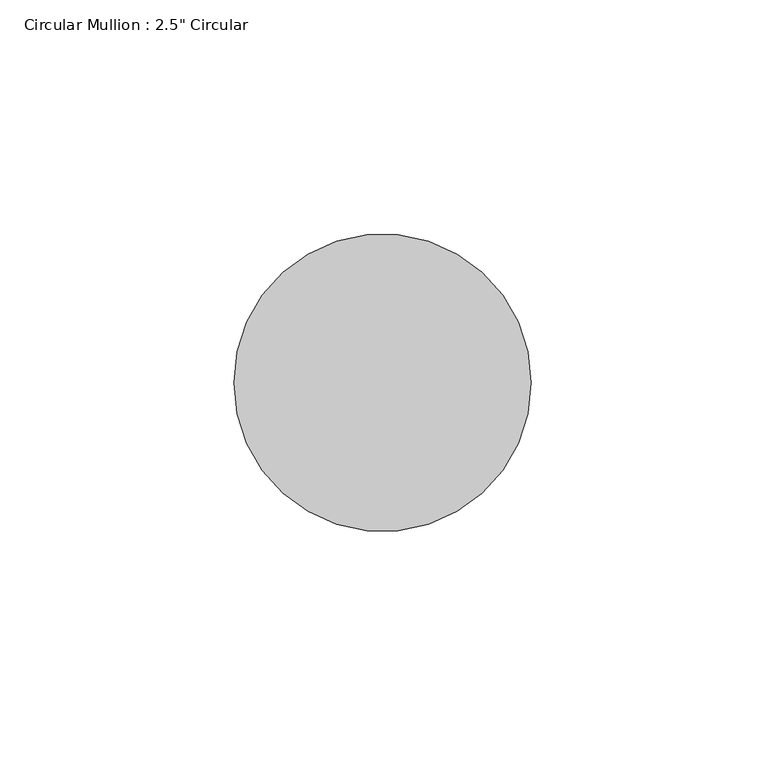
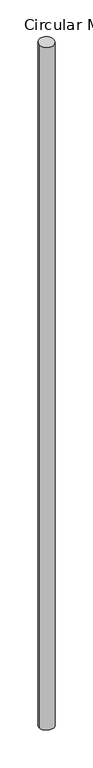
"""IFC4 building model written with IfcOpenShell, lengths in millimetres: member geometry."""

from ifc_helpers import new_model, si_unit, frame, origin, origin_with_axes, place, context, project, spatial, ellipse_curve, source, transform, mapped, element, save
from ifc_brep_helpers import plane_surface, cylinder_surface, advanced_brep


def member_e3ef78de(model_context):
    return source(origin(), model_context, "Body", "AdvancedBrep", [
        advanced_brep(
        [(-31.75, 0.0, -0.5379516), (31.75, 0.0, 0.5379516), (31.75, 0.0, -3056.9214988), (-31.75, 0.0, -3056.2273477)],
        [
            (0, 1, ellipse_curve(frame((0.0, 0.0, 0.0), z_axis=(0.016880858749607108, 0.08413524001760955, -0.996311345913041), x_axis=(0.19599342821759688, 0.9768433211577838, 0.08581201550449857)), 31.8675484, 31.75)),
            (1, 2),
            (2, 3, ellipse_curve(frame((0.0, 0.0, -3056.5744232), z_axis=(0.010912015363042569, 0.05869530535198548, 0.9982163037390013), x_axis=(-0.1824517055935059, -0.981400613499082, 0.05970101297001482)), 31.8067336, 31.75)),
            (3, 0),
            (1, 0, ellipse_curve(frame((0.0, 0.0, 0.0), z_axis=(0.016880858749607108, 0.08413524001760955, -0.996311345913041), x_axis=(0.19599342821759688, 0.9768433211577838, 0.08581201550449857)), 31.8675484, 31.75)),
            (3, 2, ellipse_curve(frame((0.0, 0.0, -3056.5744232), z_axis=(0.010912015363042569, 0.05869530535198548, 0.9982163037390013), x_axis=(-0.1824517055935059, -0.981400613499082, 0.05970101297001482)), 31.8067336, 31.75)),
        ],
        [
            cylinder_surface(origin_with_axes(), 31.75),
            plane_surface(frame((298.8441771, -59.9599685, 0.0), z_axis=(-0.016880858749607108, -0.08413524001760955, 0.996311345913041), x_axis=(-0.19599342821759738, -0.9768433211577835, -0.08581201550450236))),
            plane_surface(frame((299.6654191, -55.7106507, -3056.5744232), z_axis=(-0.010912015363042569, -0.05869530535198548, -0.9982163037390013), x_axis=(-0.1824517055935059, -0.981400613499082, 0.05970101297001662))),
        ],
        [
            (0, [[1, 2, 3, 4]]),
            (0, [[5, -4, 6, -2]]),
            (1, [[-1, -5]]),
            (2, [[-6, -3]]),
        ],
    ),
    ])


if __name__ == "__main__":
    model = new_model("IFC4")
    model_context = context("Model", 3, world=origin())
    ifc_project = project(units=[si_unit("LENGTHUNIT", "METRE", prefix="MILLI")], contexts=[model_context])
    site = spatial("IfcSite", under=ifc_project)
    building = spatial("IfcBuilding", under=site)
    placement = place(None, origin())
    member_shape = member_e3ef78de(model_context)
    element("IfcMember", 1, ObjectType="Circular Mullion : 2.5\" Circular", at=placement, inside=building, context=model_context, shape_type="MappedRepresentation", body=[
        mapped(member_shape, transform((0.0, 0.0, 0.0), x_axis=(1.0, 0.0, 0.0), y_axis=(0.0, 1.0, 0.0), z_axis=(0.0, 0.0, 1.0))),
    ])
    save(model, "model.ifc")
